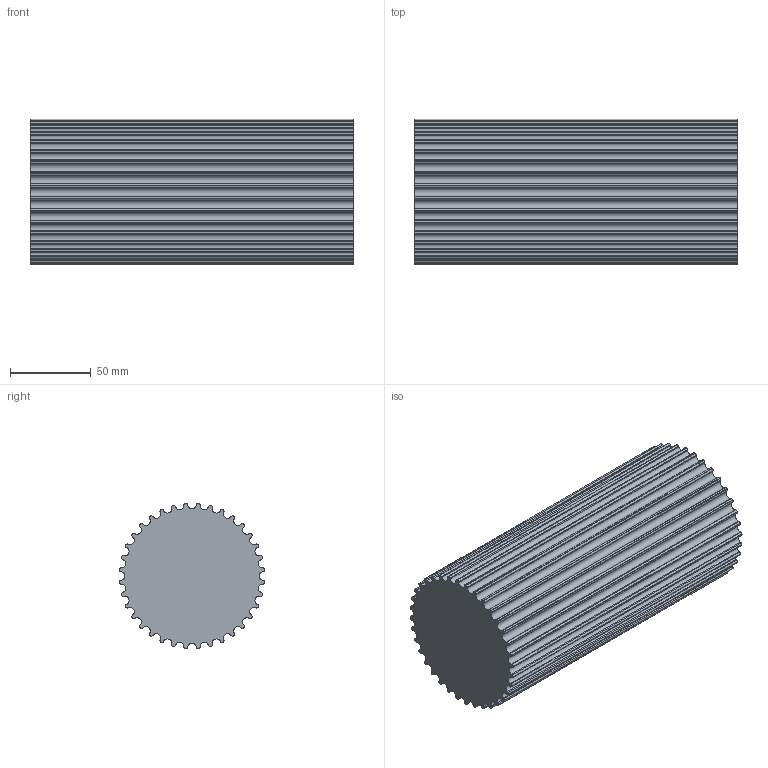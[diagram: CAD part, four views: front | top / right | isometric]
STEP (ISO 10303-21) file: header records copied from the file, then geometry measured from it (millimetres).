
FILE_DESCRIPTION( ( 'STEP AP203' ), '1' );
FILE_NAME( 'C:/Users/Stangenbergd/Desktop/17493601.stp', '2020-08-15T09:48:11', ( 'License CC BY-ND 4.0' ), ( 'CADENAS' ), ' ', 'PARTsolutions', ' ' );
FILE_SCHEMA( ( 'CONFIG_CONTROL_DESIGN' ) );
Length unit declared in the file: millimetre
Products named in the file (1): _17493601
Bounding box: 200 x 89.98 x 89.98 mm (x, y, z)
Volume: 1161971.8 mm3; surface area: 94738.2 mm2
Topology: 1 solids, 1 shells, 218 faces, 648 edges, 432 vertices
Faces by surface type: cylinder 144, plane 74
Entity records: 7484 total; most frequent: DIRECTION 1374, CARTESIAN_POINT 1299, ORIENTED_EDGE 1296, EDGE_CURVE 648, AXIS2_PLACEMENT_3D 507, VERTEX_POINT 432, LINE 360, VECTOR 360
